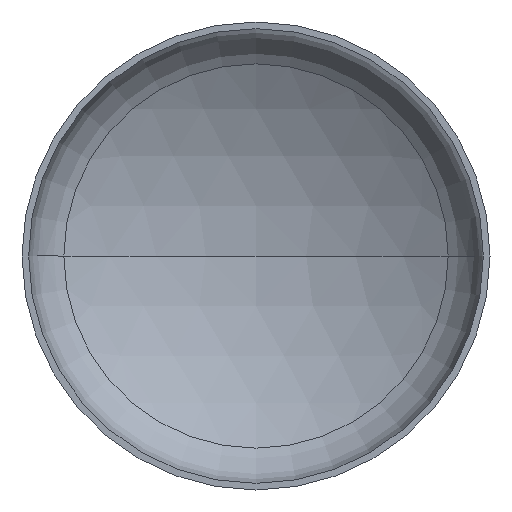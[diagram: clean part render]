
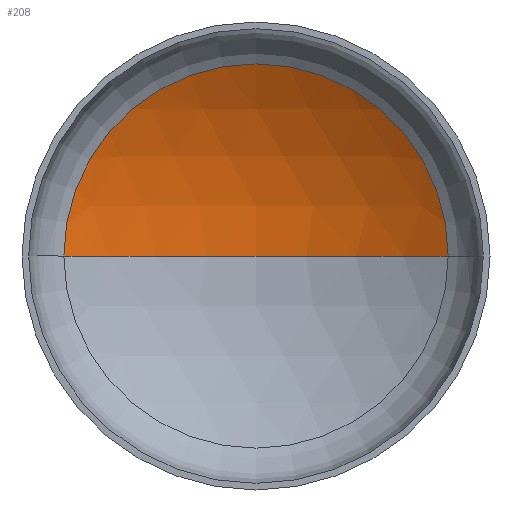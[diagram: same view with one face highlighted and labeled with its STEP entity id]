
A CAD part, front view. The second image highlights one B-rep face of the part: STEP entity #208.
In plain terms, the highlighted spherical face has radius 3600 mm.
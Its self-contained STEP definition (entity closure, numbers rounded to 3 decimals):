
#8 = AXIS2_PLACEMENT_3D ( 'NONE', #379, #248, #398 ) ;
#27 = CARTESIAN_POINT ( 'NONE',  ( -1847.711, 716.475, 0. ) ) ;
#28 = CIRCLE ( 'NONE', #39, 3600. ) ;
#29 = DIRECTION ( 'NONE',  ( -1., 0., 0. ) ) ;
#33 = AXIS2_PLACEMENT_3D ( 'NONE', #334, #94, #209 ) ;
#37 = DIRECTION ( 'NONE',  ( 0., 0., -1. ) ) ;
#39 = AXIS2_PLACEMENT_3D ( 'NONE', #341, #37, #29 ) ;
#46 = AXIS2_PLACEMENT_3D ( 'NONE', #332, #305, #307 ) ;
#63 = SPHERICAL_SURFACE ( 'NONE', #33, 3600. ) ;
#94 = DIRECTION ( 'NONE',  ( 0., 0., -1. ) ) ;
#129 = ORIENTED_EDGE ( 'NONE', *, *, #133, .T. ) ;
#133 = EDGE_CURVE ( 'NONE', #142, #164, #170, .T. ) ;
#138 = ORIENTED_EDGE ( 'NONE', *, *, #360, .F. ) ;
#142 = VERTEX_POINT ( 'NONE', #327 ) ;
#146 = EDGE_CURVE ( 'NONE', #329, #142, #28, .T. ) ;
#164 = VERTEX_POINT ( 'NONE', #27 ) ;
#170 = CIRCLE ( 'NONE', #46, 1847.711 ) ;
#178 = ORIENTED_EDGE ( 'NONE', *, *, #146, .T. ) ;
#184 = EDGE_LOOP ( 'NONE', ( #138, #178, #129 ) ) ;
#208 = ADVANCED_FACE ( 'NONE', ( #406 ), #63, .F. ) ;
#209 = DIRECTION ( 'NONE',  ( -1., 0., 0. ) ) ;
#248 = DIRECTION ( 'NONE',  ( 0., 0., 1. ) ) ;
#284 = CARTESIAN_POINT ( 'NONE',  ( 0., 1226.821, 0. ) ) ;
#305 = DIRECTION ( 'NONE',  ( 0., -1., 0. ) ) ;
#307 = DIRECTION ( 'NONE',  ( 1., 0., 0. ) ) ;
#327 = CARTESIAN_POINT ( 'NONE',  ( 1847.711, 716.475, 0. ) ) ;
#329 = VERTEX_POINT ( 'NONE', #284 ) ;
#331 = CIRCLE ( 'NONE', #8, 3600. ) ;
#332 = CARTESIAN_POINT ( 'NONE',  ( 0., 716.475, 0. ) ) ;
#334 = CARTESIAN_POINT ( 'NONE',  ( 0., -2373.179, 0. ) ) ;
#341 = CARTESIAN_POINT ( 'NONE',  ( 0., -2373.179, 0. ) ) ;
#360 = EDGE_CURVE ( 'NONE', #329, #164, #331, .T. ) ;
#379 = CARTESIAN_POINT ( 'NONE',  ( 0., -2373.179, 0. ) ) ;
#398 = DIRECTION ( 'NONE',  ( 1., 0., 0. ) ) ;
#406 = FACE_OUTER_BOUND ( 'NONE', #184, .T. ) ;
